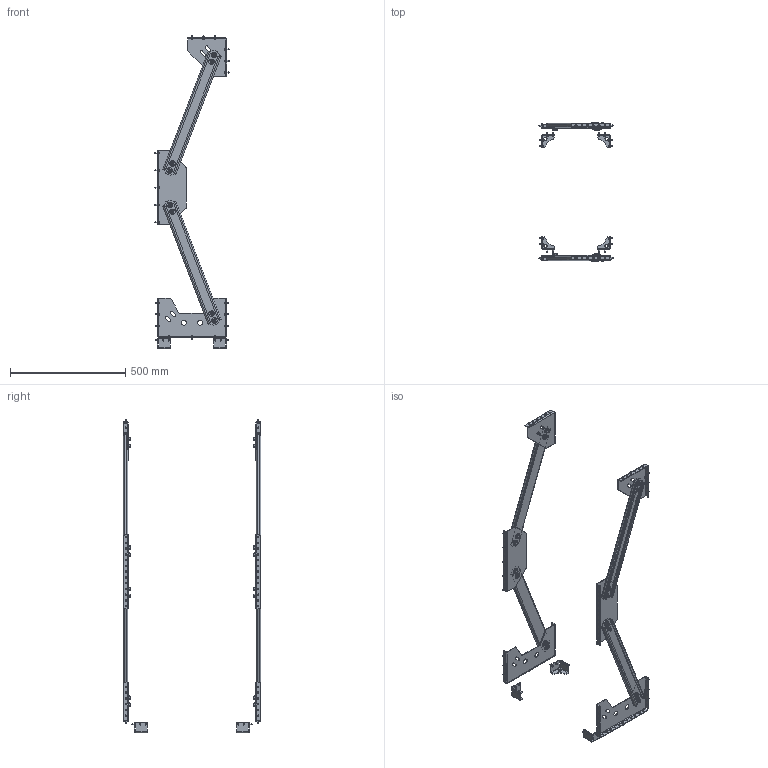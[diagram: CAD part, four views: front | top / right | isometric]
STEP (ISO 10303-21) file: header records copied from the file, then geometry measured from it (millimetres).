
FILE_DESCRIPTION(('STEP AP203'), '1');
FILE_NAME('3950.140.40 Ñåéñìîêîìïëåêò 1400õ400', '', ('UNSPECIFIED'), ('UNSPECIFIED'), 'C3D Converter', 'C3D Toolkit', '');
FILE_SCHEMA(('CONFIG_CONTROL_DESIGN'));
Length unit declared in the file: millimetre
Products named in the file (21): 3950.140.40; 3950.01; 3950.02; 3950.03.40; 3950.04; 3950.05.140.40
Assembly tree (150 placements, depth 2):
  3950.140.40
    3950.01  x2
    3950.02
    3950.03.40
    3950.04
    3950.05.140.40  x2
    (unnamed)  x16
    (unnamed)  x8
    (unnamed)  x8
    (unnamed)  x8
    (unnamed)  x36
    (unnamed)  x20
    (unnamed)  x8
    (unnamed)  x8
    (unnamed)  x8
    (unnamed)  x16
    3950.05.140.40  x2
    3950.04
    3950.03.40
    3950.02
    3950.01  x2
Bounding box: 322 x 598 x 1359.5 mm (x, y, z)
Volume: 1531369.2 mm3; surface area: 1095708.5 mm2
Topology: 150 solids, 150 shells, 2874 faces, 6706 edges, 4292 vertices
Faces by surface type: plane 1306, cylinder 560, cone 544, bspline 336, torus 128
Full cylindrical faces by diameter (mm): 4.8 x56, 6 x16, 6.5 x96, 6.647 x16, 8 x16, 9 x40, 14 x4, 22 x4, 24 x32
Entity records: 32226 total; most frequent: CARTESIAN_POINT 10551, DIRECTION 3894, ORIENTED_EDGE 3208, EDGE_CURVE 1604, AXIS2_PLACEMENT_3D 1525, EDGE_LOOP 1148, VERTEX_POINT 1088, FACE_BOUND 868
